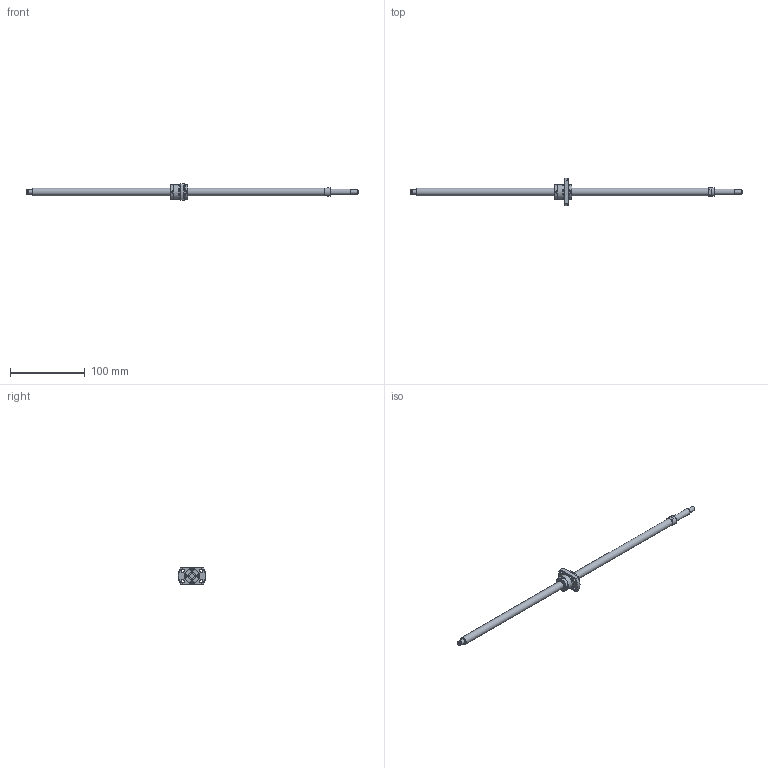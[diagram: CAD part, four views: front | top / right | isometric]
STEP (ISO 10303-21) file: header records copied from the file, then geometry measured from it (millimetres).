
FILE_DESCRIPTION(/* description */ ('STEP AP214'),/* implementation_level */ '2;1');
FILE_NAME(/* name */ 'SRT1020-387R445C7B0X(185Processing)',/* time_stamp */ '2026-08-06T15:24:09+02:00',/* author */ ('License CC BY-ND 4.0'),/* organization */ ('CADENAS'),/* preprocessor_version */ 'ST-DEVELOPER v20',/* originating_system */ 'PARTsolutions',/* authorisation */ ' ');
FILE_SCHEMA (('AUTOMOTIVE_DESIGN {1 0 10303 214 3 1 1}'));
Length unit declared in the file: millimetre
Products named in the file (3): SRT1020-387R445C7B0X(185Processing); SRT1020-387R470BCt7Processing74Shaft; SRT1020Nut
Assembly tree (2 placements, depth 2):
  SRT1020-387R445C7B0X(185Processing)
    SRT1020-387R470BCt7Processing74Shaft
    SRT1020Nut
Bounding box: 445 x 37 x 22 mm (x, y, z)
Volume: 40486.4 mm3; surface area: 17912.2 mm2
Topology: 2 solids, 2 shells, 155 faces, 367 edges, 241 vertices
Faces by surface type: plane 109, cylinder 35, cone 10, torus 1
Full cylindrical faces by diameter (mm): 3 x8, 4.5 x4, 5.7 x1, 6 x3, 8 x1, 10 x2, 11.5 x1, 19.5 x3, 20 x2
Entity records: 4367 total; most frequent: CARTESIAN_POINT 752, DIRECTION 738, ORIENTED_EDGE 664, EDGE_CURVE 332, AXIS2_PLACEMENT_3D 256, VERTEX_POINT 238, LINE 226, VECTOR 226
